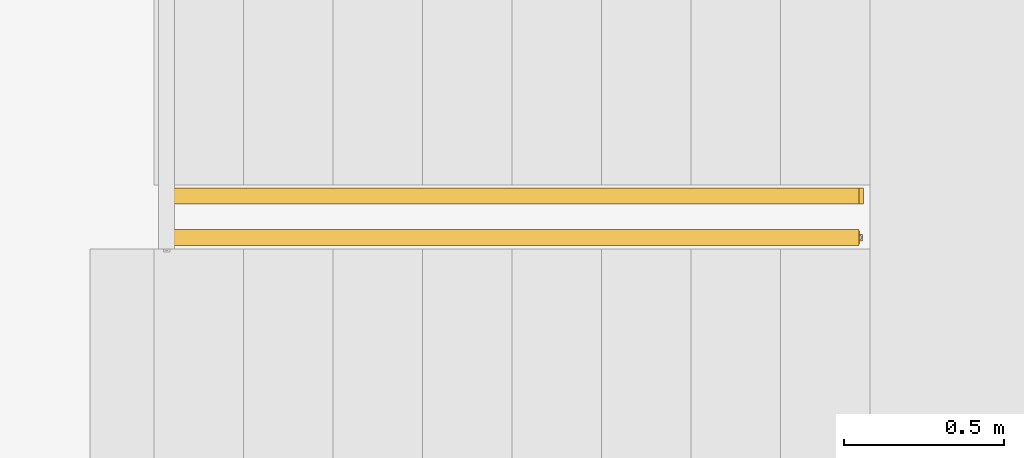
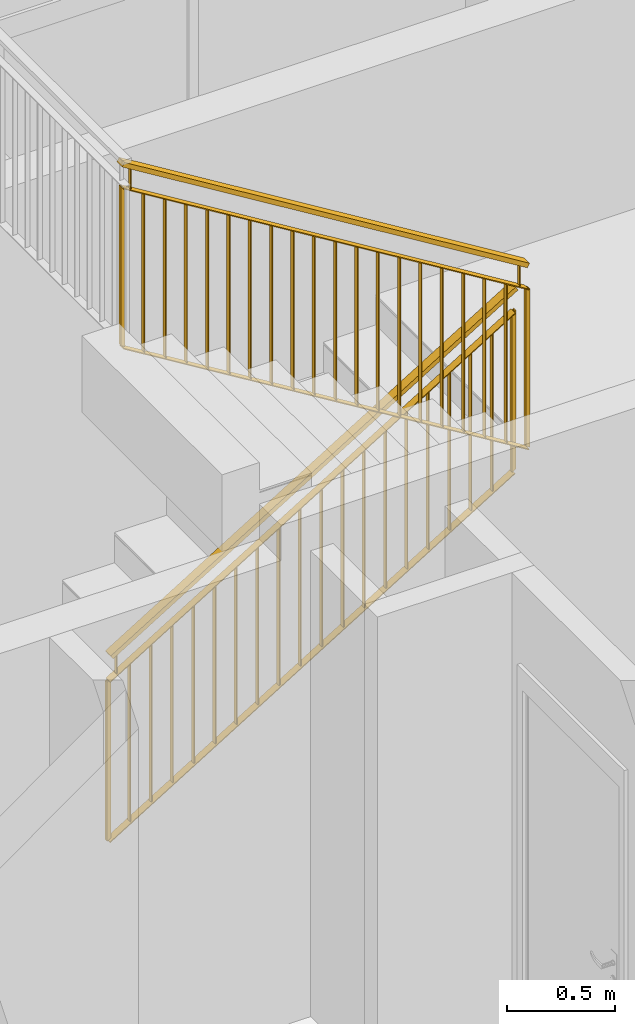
# One storey, part 7 of 61: 2 railings.
"""IFC2X3 building model written with IfcOpenShell, lengths in millimetres."""

from ifc_helpers import new_model, entity, si_unit, converted_unit, derived_unit, money_unit, direction, frame, origin_with_axes, place, context, subcontext, project, spatial, faceted_brep, material, material_list, type_object, element, save


model = new_model("IFC2X3")

# Units and contexts
model_context = context("Model", 3, precision=0.01, world=origin_with_axes(), true_north=direction((0.34421633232, 0.938890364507)))
body_context = subcontext(model_context, "Body", "Model", "MODEL_VIEW")
ifc_project = project(units=[si_unit("LENGTHUNIT", "METRE", prefix="MILLI"), si_unit("AREAUNIT", "SQUARE_METRE"), si_unit("VOLUMEUNIT", "CUBIC_METRE"), converted_unit("PLANEANGLEUNIT", "DEGREE", entity("IfcPlaneAngleMeasure", 0.0174532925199), si_unit("PLANEANGLEUNIT", "RADIAN"), dimensions=[0, 0, 0, 0, 0, 0, 0]), si_unit("SOLIDANGLEUNIT", "STERADIAN"), money_unit("USD"), converted_unit("TIMEUNIT", "Year", entity("IfcTimeMeasure", 31556926.0), si_unit("TIMEUNIT", "SECOND"), dimensions=[0, 0, 1, 0, 0, 0, 0]), si_unit("MASSUNIT", "GRAM", prefix="KILO"), si_unit("THERMODYNAMICTEMPERATUREUNIT", "DEGREE_CELSIUS"), si_unit("LUMINOUSINTENSITYUNIT", "LUMEN"), si_unit("ENERGYUNIT", "JOULE", prefix="MEGA"), derived_unit("THERMALCONDUCTANCEUNIT", [(si_unit("POWERUNIT", "WATT"), 1), (si_unit("LENGTHUNIT", "METRE"), -1), (si_unit("THERMODYNAMICTEMPERATUREUNIT", "KELVIN"), -1)]), derived_unit("SPECIFICHEATCAPACITYUNIT", [(si_unit("ENERGYUNIT", "JOULE"), 1), (si_unit("MASSUNIT", "GRAM", prefix="KILO"), -1), (si_unit("THERMODYNAMICTEMPERATUREUNIT", "KELVIN"), -1)]), derived_unit("MASSDENSITYUNIT", [(si_unit("MASSUNIT", "GRAM", prefix="KILO"), 1), (si_unit("VOLUMEUNIT", "CUBIC_METRE"), -1)])], contexts=[model_context])

# Site, building, storey
site_placement = place(None, origin_with_axes())
site = spatial("IfcSite", under=ifc_project, at=site_placement, Name="USTRONIE MORSKIE", CompositionType="ELEMENT")
building_placement = place(site_placement, origin_with_axes())
building = spatial("IfcBuilding", under=site, at=building_placement, Name="Budynek", CompositionType="ELEMENT")
storey_placement = place(building_placement, frame((0.0, 0.0, 13000.0), z_axis=(0.0, 0.0, 1.0), x_axis=(1.0, 0.0, 0.0)))
storey = spatial("IfcBuildingStorey", under=building, at=storey_placement, Name="PIĘTRO 4", CompositionType="ELEMENT", Elevation=13000.0)

# Railings
ifc_material_1 = material(Name="Stal konstrukcyjna")
ifc_material_2 = material(Name="Stal nierdzewna")
ifc_material_list = material_list([ifc_material_1, ifc_material_1, ifc_material_2, ifc_material_2, ifc_material_2, ifc_material_1, ifc_material_1, ifc_material_1, ifc_material_1, ifc_material_1, ifc_material_1, ifc_material_1, ifc_material_1, ifc_material_1, ifc_material_1, ifc_material_1, ifc_material_1, ifc_material_1, ifc_material_1, ifc_material_1, ifc_material_1, ifc_material_1, ifc_material_1])
railing_type = type_object("IfcRailingType", Name="Typ balustrady", PredefinedType="NOTDEFINED")
railing_1_placement = place(storey_placement, frame((392357.920919, 731401.199036, 192.573908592), z_axis=(0.0, 0.0, 1.0), x_axis=(1.0, 0.0, 0.0)))
element("IfcRailing", 1, at=railing_1_placement, inside=storey, type_object=railing_type, material=ifc_material_list, Name="BL1", PredefinedType="NOTDEFINED", context=body_context, shape_type="Brep", body=[
    faceted_brep([(44.1011324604, -45.0, -143.869047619), (44.1011324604, -25.0, -143.869047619), (44.1011324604, -25.0, 756.130952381), (44.1011324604, -45.0, 756.130952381), (24.1011324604, -45.0, -156.130952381), (24.1011324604, -25.0, -156.130952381), (39.1011324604, -40.0, -146.93452381), (39.1011324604, -30.0, -146.93452381), (29.1011324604, -30.0, -153.06547619), (29.1011324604, -40.0, -153.06547619), (24.1011324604, -25.0, 743.869047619), (24.1011324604, -45.0, 743.869047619), (39.1011324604, -40.0, 753.06547619), (29.1011324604, -40.0, 746.93452381), (29.1011324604, -30.0, 746.93452381), (39.1011324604, -30.0, 753.06547619)], [[[0, 1, 2, 3]], [[0, 4, 5, 1], [6, 7, 8, 9]], [[1, 5, 10, 2]], [[3, 2, 10, 11], [12, 13, 14, 15]], [[4, 0, 3, 11]], [[5, 4, 11, 10]], [[7, 6, 12, 15]], [[8, 7, 15, 14]], [[9, 8, 14, 13]], [[6, 9, 13, 12]]]),
    faceted_brep([(2215.89886754, -45.0, 1187.64980186), (2215.89886754, -25.0, 1187.64980186), (2215.89886754, -25.0, 2087.64980186), (2215.89886754, -45.0, 2087.64980186), (2195.89886754, -45.0, 1175.3878971), (2195.89886754, -25.0, 1175.3878971), (2210.89886754, -40.0, 1184.58432567), (2210.89886754, -30.0, 1184.58432567), (2200.89886754, -30.0, 1178.45337329), (2200.89886754, -40.0, 1178.45337329), (2195.89886754, -25.0, 2075.3878971), (2195.89886754, -45.0, 2075.3878971), (2210.89886754, -40.0, 2084.58432567), (2200.89886754, -40.0, 2078.45337329), (2200.89886754, -30.0, 2078.45337329), (2210.89886754, -30.0, 2084.58432567)], [[[0, 1, 2, 3]], [[0, 4, 5, 1], [6, 7, 8, 9]], [[1, 5, 10, 2]], [[3, 2, 10, 11], [12, 13, 14, 15]], [[4, 0, 3, 11]], [[5, 4, 11, 10]], [[7, 6, 12, 15]], [[8, 7, 15, 14]], [[9, 8, 14, 13]], [[6, 9, 13, 12]]]),
    faceted_brep([(34.1011324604, -59.9999999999, 900.0), (47.1681586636, -59.9999999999, 878.686792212), (2218.96589374, -59.9999999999, 2210.2056417), (2205.89886754, -59.9999999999, 2231.51884948), (34.1011324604, -9.99999999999, 900.0), (47.1681586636, -9.99999999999, 878.686792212), (47.1681586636, -25.0, 878.686792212), (44.554753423, -25.0, 882.94943377), (44.554753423, -45.0, 882.94943377), (47.1681586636, -45.0, 878.686792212), (2218.96589374, -45.0, 2210.2056417), (2216.3524885, -45.0, 2214.46828325), (2216.3524885, -25.0, 2214.46828325), (2218.96589374, -25.0, 2210.2056417), (2218.96589374, -9.99999999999, 2210.2056417), (2205.89886754, -9.99999999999, 2231.51884948)], [[[0, 1, 2, 3]], [[0, 4, 5, 6, 7, 8, 9, 1]], [[1, 9, 10, 2]], [[3, 2, 10, 11, 12, 13, 14, 15]], [[4, 0, 3, 15]], [[5, 4, 15, 14]], [[6, 5, 14, 13]], [[7, 6, 13, 12]], [[8, 7, 12, 11]], [[9, 8, 11, 10]]]),
    faceted_brep([(47.1681586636, -45.0, 878.686792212), (47.1681586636, -25.0, 878.686792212), (2218.96589374, -25.0, 2210.2056417), (2218.96589374, -45.0, 2210.2056417), (44.554753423, -45.0, 882.94943377), (44.554753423, -25.0, 882.94943377), (2216.3524885, -25.0, 2214.46828325), (2216.3524885, -45.0, 2214.46828325)], [[[0, 1, 2, 3]], [[0, 4, 5, 1]], [[1, 5, 6, 2]], [[3, 2, 6, 7]], [[4, 0, 3, 7]], [[5, 4, 7, 6]]]),
    faceted_brep([(79.2275480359, -45.0, 776.809513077), (79.2275480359, -25.0, 776.809513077), (79.2275480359, -25.0, 898.342251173), (79.2275480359, -45.0, 898.342251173), (74.2275480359, -45.0, 776.809513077), (74.2275480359, -25.0, 776.809513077), (74.2275480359, -25.0, 896.809513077), (76.7275480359, -25.0, 898.342251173), (76.7275480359, -45.0, 898.342251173), (74.2275480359, -45.0, 896.809513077)], [[[0, 1, 2, 3]], [[0, 4, 5, 1]], [[1, 5, 6, 7, 2]], [[3, 2, 7, 8]], [[4, 0, 3, 8, 9]], [[5, 4, 9, 6]], [[7, 6, 9, 8]]]),
    faceted_brep([(2165.77245196, -45.0, 2056.06025775), (2165.77245196, -25.0, 2056.06025775), (2165.77245196, -25.0, 2177.59299584), (2165.77245196, -45.0, 2177.59299584), (2160.77245196, -45.0, 2056.06025775), (2160.77245196, -25.0, 2056.06025775), (2160.77245196, -25.0, 2176.06025775), (2163.27245196, -25.0, 2177.59299584), (2163.27245196, -45.0, 2177.59299584), (2160.77245196, -45.0, 2176.06025775)], [[[0, 1, 2, 3]], [[0, 4, 5, 1]], [[1, 5, 6, 7, 2]], [[3, 2, 7, 8]], [[4, 0, 3, 8, 9]], [[5, 4, 9, 6]], [[7, 6, 9, 8]]]),
    faceted_brep([(34.1011324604, -54.9999999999, 750.0), (36.7145377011, -54.9999999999, 745.737358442), (2208.51227278, -54.9999999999, 2077.25620793), (2205.89886754, -54.9999999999, 2081.51884948), (34.1011324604, -15.0, 750.0), (36.7145377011, -15.0, 745.737358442), (2208.51227278, -15.0, 2077.25620793), (2205.89886754, -15.0, 2081.51884948)], [[[0, 1, 2, 3]], [[0, 4, 5, 1]], [[1, 5, 6, 2]], [[3, 2, 6, 7]], [[4, 0, 3, 7]], [[5, 4, 7, 6]]]),
    faceted_brep([(32.7944298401, -54.9999999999, -157.868679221), (35.4078350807, -54.9999999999, -162.131320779), (2207.20557016, -54.9999999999, 1169.3875287), (2204.59216492, -54.9999999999, 1173.65017026), (32.7944298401, -15.0, -157.868679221), (35.4078350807, -15.0, -162.131320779), (2207.20557016, -15.0, 1169.3875287), (2204.59216492, -15.0, 1173.65017026)], [[[0, 1, 2, 3]], [[0, 4, 5, 1]], [[1, 5, 6, 2]], [[3, 2, 6, 7]], [[4, 0, 3, 7]], [[5, 4, 7, 6]]]),
    faceted_brep([(150.906276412, -47.5, -83.3873224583), (150.906276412, -22.4999999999, -83.3873224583), (150.906276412, -22.4999999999, 816.612677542), (150.906276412, -47.5, 816.612677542), (145.906276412, -47.5, -86.4527986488), (145.906276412, -22.4999999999, -86.4527986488), (145.906276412, -22.4999999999, 813.547201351), (145.906276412, -47.5, 813.547201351)], [[[0, 1, 2, 3]], [[0, 4, 5, 1]], [[1, 5, 6, 2]], [[3, 2, 6, 7]], [[4, 0, 3, 7]], [[5, 4, 7, 6]]]),
    faceted_brep([(265.211420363, -47.5, -13.3073830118), (265.211420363, -22.4999999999, -13.3073830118), (265.211420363, -22.4999999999, 886.692616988), (265.211420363, -47.5, 886.692616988), (260.211420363, -47.5, -16.3728592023), (260.211420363, -22.4999999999, -16.3728592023), (260.211420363, -22.4999999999, 883.627140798), (260.211420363, -47.5, 883.627140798)], [[[0, 1, 2, 3]], [[0, 4, 5, 1]], [[1, 5, 6, 2]], [[3, 2, 6, 7]], [[4, 0, 3, 7]], [[5, 4, 7, 6]]]),
    faceted_brep([(379.516564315, -47.5, 56.7725564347), (379.516564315, -22.4999999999, 56.7725564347), (379.516564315, -22.4999999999, 956.772556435), (379.516564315, -47.5, 956.772556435), (374.516564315, -47.5, 53.7070802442), (374.516564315, -22.4999999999, 53.7070802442), (374.516564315, -22.4999999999, 953.707080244), (374.516564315, -47.5, 953.707080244)], [[[0, 1, 2, 3]], [[0, 4, 5, 1]], [[1, 5, 6, 2]], [[3, 2, 6, 7]], [[4, 0, 3, 7]], [[5, 4, 7, 6]]]),
    faceted_brep([(493.821708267, -47.5, 126.852495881), (493.821708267, -22.4999999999, 126.852495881), (493.821708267, -22.4999999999, 1026.85249588), (493.821708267, -47.5, 1026.85249588), (488.821708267, -47.5, 123.787019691), (488.821708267, -22.4999999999, 123.787019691), (488.821708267, -22.4999999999, 1023.78701969), (488.821708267, -47.5, 1023.78701969)], [[[0, 1, 2, 3]], [[0, 4, 5, 1]], [[1, 5, 6, 2]], [[3, 2, 6, 7]], [[4, 0, 3, 7]], [[5, 4, 7, 6]]]),
    faceted_brep([(608.126852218, -47.5, 196.932435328), (608.126852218, -22.4999999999, 196.932435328), (608.126852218, -22.4999999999, 1096.93243533), (608.126852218, -47.5, 1096.93243533), (603.126852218, -47.5, 193.866959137), (603.126852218, -22.4999999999, 193.866959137), (603.126852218, -22.4999999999, 1093.86695914), (603.126852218, -47.5, 1093.86695914)], [[[0, 1, 2, 3]], [[0, 4, 5, 1]], [[1, 5, 6, 2]], [[3, 2, 6, 7]], [[4, 0, 3, 7]], [[5, 4, 7, 6]]]),
    faceted_brep([(722.43199617, -47.5, 267.012374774), (722.43199617, -22.4999999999, 267.012374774), (722.43199617, -22.4999999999, 1167.01237477), (722.43199617, -47.5, 1167.01237477), (717.43199617, -47.5, 263.946898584), (717.43199617, -22.4999999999, 263.946898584), (717.43199617, -22.4999999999, 1163.94689858), (717.43199617, -47.5, 1163.94689858)], [[[0, 1, 2, 3]], [[0, 4, 5, 1]], [[1, 5, 6, 2]], [[3, 2, 6, 7]], [[4, 0, 3, 7]], [[5, 4, 7, 6]]]),
    faceted_brep([(836.737140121, -47.5, 337.092314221), (836.737140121, -22.4999999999, 337.092314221), (836.737140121, -22.4999999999, 1237.09231422), (836.737140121, -47.5, 1237.09231422), (831.737140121, -47.5, 334.02683803), (831.737140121, -22.4999999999, 334.02683803), (831.737140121, -22.4999999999, 1234.02683803), (831.737140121, -47.5, 1234.02683803)], [[[0, 1, 2, 3]], [[0, 4, 5, 1]], [[1, 5, 6, 2]], [[3, 2, 6, 7]], [[4, 0, 3, 7]], [[5, 4, 7, 6]]]),
    faceted_brep([(951.042284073, -47.5, 407.172253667), (951.042284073, -22.4999999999, 407.172253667), (951.042284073, -22.4999999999, 1307.17225367), (951.042284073, -47.5, 1307.17225367), (946.042284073, -47.5, 404.106777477), (946.042284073, -22.4999999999, 404.106777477), (946.042284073, -22.4999999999, 1304.10677748), (946.042284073, -47.5, 1304.10677748)], [[[0, 1, 2, 3]], [[0, 4, 5, 1]], [[1, 5, 6, 2]], [[3, 2, 6, 7]], [[4, 0, 3, 7]], [[5, 4, 7, 6]]]),
    faceted_brep([(1065.34742802, -47.5, 477.252193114), (1065.34742802, -22.4999999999, 477.252193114), (1065.34742802, -22.4999999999, 1377.25219311), (1065.34742802, -47.5, 1377.25219311), (1060.34742802, -47.5, 474.186716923), (1060.34742802, -22.4999999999, 474.186716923), (1060.34742802, -22.4999999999, 1374.18671692), (1060.34742802, -47.5, 1374.18671692)], [[[0, 1, 2, 3]], [[0, 4, 5, 1]], [[1, 5, 6, 2]], [[3, 2, 6, 7]], [[4, 0, 3, 7]], [[5, 4, 7, 6]]]),
    faceted_brep([(1179.65257198, -47.5, 547.33213256), (1179.65257198, -22.4999999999, 547.33213256), (1179.65257198, -22.4999999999, 1447.33213256), (1179.65257198, -47.5, 1447.33213256), (1174.65257198, -47.5, 544.26665637), (1174.65257198, -22.4999999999, 544.26665637), (1174.65257198, -22.4999999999, 1444.26665637), (1174.65257198, -47.5, 1444.26665637)], [[[0, 1, 2, 3]], [[0, 4, 5, 1]], [[1, 5, 6, 2]], [[3, 2, 6, 7]], [[4, 0, 3, 7]], [[5, 4, 7, 6]]]),
    faceted_brep([(1293.95771593, -47.5, 617.412072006), (1293.95771593, -22.4999999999, 617.412072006), (1293.95771593, -22.4999999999, 1517.41207201), (1293.95771593, -47.5, 1517.41207201), (1288.95771593, -47.5, 614.346595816), (1288.95771593, -22.4999999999, 614.346595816), (1288.95771593, -22.4999999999, 1514.34659582), (1288.95771593, -47.5, 1514.34659582)], [[[0, 1, 2, 3]], [[0, 4, 5, 1]], [[1, 5, 6, 2]], [[3, 2, 6, 7]], [[4, 0, 3, 7]], [[5, 4, 7, 6]]]),
    faceted_brep([(1408.26285988, -47.5, 687.492011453), (1408.26285988, -22.4999999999, 687.492011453), (1408.26285988, -22.4999999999, 1587.49201145), (1408.26285988, -47.5, 1587.49201145), (1403.26285988, -47.5, 684.426535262), (1403.26285988, -22.4999999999, 684.426535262), (1403.26285988, -22.4999999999, 1584.42653526), (1403.26285988, -47.5, 1584.42653526)], [[[0, 1, 2, 3]], [[0, 4, 5, 1]], [[1, 5, 6, 2]], [[3, 2, 6, 7]], [[4, 0, 3, 7]], [[5, 4, 7, 6]]]),
    faceted_brep([(1522.56800383, -47.5, 757.571950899), (1522.56800383, -22.4999999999, 757.571950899), (1522.56800383, -22.4999999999, 1657.5719509), (1522.56800383, -47.5, 1657.5719509), (1517.56800383, -47.5, 754.506474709), (1517.56800383, -22.4999999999, 754.506474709), (1517.56800383, -22.4999999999, 1654.50647471), (1517.56800383, -47.5, 1654.50647471)], [[[0, 1, 2, 3]], [[0, 4, 5, 1]], [[1, 5, 6, 2]], [[3, 2, 6, 7]], [[4, 0, 3, 7]], [[5, 4, 7, 6]]]),
    faceted_brep([(1636.87314778, -47.5, 827.651890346), (1636.87314778, -22.4999999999, 827.651890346), (1636.87314778, -22.4999999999, 1727.65189035), (1636.87314778, -47.5, 1727.65189035), (1631.87314778, -47.5, 824.586414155), (1631.87314778, -22.4999999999, 824.586414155), (1631.87314778, -22.4999999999, 1724.58641416), (1631.87314778, -47.5, 1724.58641416)], [[[0, 1, 2, 3]], [[0, 4, 5, 1]], [[1, 5, 6, 2]], [[3, 2, 6, 7]], [[4, 0, 3, 7]], [[5, 4, 7, 6]]]),
    faceted_brep([(1751.17829173, -47.5, 897.731829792), (1751.17829173, -22.4999999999, 897.731829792), (1751.17829173, -22.4999999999, 1797.73182979), (1751.17829173, -47.5, 1797.73182979), (1746.17829173, -47.5, 894.666353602), (1746.17829173, -22.4999999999, 894.666353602), (1746.17829173, -22.4999999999, 1794.6663536), (1746.17829173, -47.5, 1794.6663536)], [[[0, 1, 2, 3]], [[0, 4, 5, 1]], [[1, 5, 6, 2]], [[3, 2, 6, 7]], [[4, 0, 3, 7]], [[5, 4, 7, 6]]]),
    faceted_brep([(1865.48343569, -47.5, 967.811769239), (1865.48343569, -22.4999999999, 967.811769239), (1865.48343569, -22.4999999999, 1867.81176924), (1865.48343569, -47.5, 1867.81176924), (1860.48343569, -47.5, 964.746293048), (1860.48343569, -22.4999999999, 964.746293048), (1860.48343569, -22.4999999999, 1864.74629305), (1860.48343569, -47.5, 1864.74629305)], [[[0, 1, 2, 3]], [[0, 4, 5, 1]], [[1, 5, 6, 2]], [[3, 2, 6, 7]], [[4, 0, 3, 7]], [[5, 4, 7, 6]]]),
    faceted_brep([(1979.78857964, -47.5, 1037.89170869), (1979.78857964, -22.4999999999, 1037.89170869), (1979.78857964, -22.4999999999, 1937.89170869), (1979.78857964, -47.5, 1937.89170869), (1974.78857964, -47.5, 1034.82623249), (1974.78857964, -22.4999999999, 1034.82623249), (1974.78857964, -22.4999999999, 1934.82623249), (1974.78857964, -47.5, 1934.82623249)], [[[0, 1, 2, 3]], [[0, 4, 5, 1]], [[1, 5, 6, 2]], [[3, 2, 6, 7]], [[4, 0, 3, 7]], [[5, 4, 7, 6]]]),
    faceted_brep([(2094.09372359, -47.5, 1107.97164813), (2094.09372359, -22.4999999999, 1107.97164813), (2094.09372359, -22.4999999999, 2007.97164813), (2094.09372359, -47.5, 2007.97164813), (2089.09372359, -47.5, 1104.90617194), (2089.09372359, -22.4999999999, 1104.90617194), (2089.09372359, -22.4999999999, 2004.90617194), (2089.09372359, -47.5, 2004.90617194)], [[[0, 1, 2, 3]], [[0, 4, 5, 1]], [[1, 5, 6, 2]], [[3, 2, 6, 7]], [[4, 0, 3, 7]], [[5, 4, 7, 6]]]),
])
railing_2_placement = place(storey_placement, frame((394597.920919, 731201.199036, 1737.57390859), z_axis=(0.0, 0.0, 1.0), x_axis=(1.0, 0.0, 0.0)))
element("IfcRailing", 2, at=railing_2_placement, inside=storey, type_object=railing_type, material=ifc_material_list, Name="BL1", PredefinedType="NOTDEFINED", context=body_context, shape_type="Brep", body=[
    faceted_brep([(-44.1011324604, 45.0, -143.869047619), (-44.1011324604, 25.0, -143.869047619), (-44.1011324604, 25.0, 756.130952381), (-44.1011324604, 45.0, 756.130952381), (-24.1011324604, 45.0, -156.130952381), (-24.1011324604, 25.0, -156.130952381), (-39.1011324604, 40.0, -146.93452381), (-39.1011324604, 30.0, -146.93452381), (-29.1011324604, 30.0, -153.06547619), (-29.1011324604, 40.0, -153.06547619), (-24.1011324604, 25.0, 743.869047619), (-24.1011324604, 45.0, 743.869047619), (-39.1011324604, 40.0, 753.06547619), (-29.1011324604, 40.0, 746.93452381), (-29.1011324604, 30.0, 746.93452381), (-39.1011324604, 30.0, 753.06547619)], [[[0, 1, 2, 3]], [[0, 4, 5, 1], [6, 7, 8, 9]], [[1, 5, 10, 2]], [[3, 2, 10, 11], [12, 13, 14, 15]], [[4, 0, 3, 11]], [[5, 4, 11, 10]], [[7, 6, 12, 15]], [[8, 7, 15, 14]], [[9, 8, 14, 13]], [[6, 9, 13, 12]]]),
    faceted_brep([(-2215.89886754, 45.0, 1187.64980186), (-2215.89886754, 25.0, 1187.64980186), (-2215.89886754, 25.0, 2087.64980186), (-2215.89886754, 45.0, 2087.64980186), (-2195.89886754, 45.0, 1175.3878971), (-2195.89886754, 25.0, 1175.3878971), (-2210.89886754, 40.0, 1184.58432567), (-2210.89886754, 30.0, 1184.58432567), (-2200.89886754, 30.0, 1178.45337329), (-2200.89886754, 40.0, 1178.45337329), (-2195.89886754, 25.0, 2075.3878971), (-2195.89886754, 45.0, 2075.3878971), (-2210.89886754, 40.0, 2084.58432567), (-2200.89886754, 40.0, 2078.45337329), (-2200.89886754, 30.0, 2078.45337329), (-2210.89886754, 30.0, 2084.58432567)], [[[0, 1, 2, 3]], [[0, 4, 5, 1], [6, 7, 8, 9]], [[1, 5, 10, 2]], [[3, 2, 10, 11], [12, 13, 14, 15]], [[4, 0, 3, 11]], [[5, 4, 11, 10]], [[7, 6, 12, 15]], [[8, 7, 15, 14]], [[9, 8, 14, 13]], [[6, 9, 13, 12]]]),
    faceted_brep([(-34.1011324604, 59.9999999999, 900.0), (-47.1681586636, 59.9999999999, 878.686792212), (-2218.96589374, 59.9999999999, 2210.2056417), (-2205.89886754, 59.9999999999, 2231.51884948), (-34.1011324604, 9.99999999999, 900.0), (-47.1681586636, 9.99999999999, 878.686792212), (-47.1681586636, 25.0, 878.686792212), (-44.554753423, 25.0, 882.94943377), (-44.554753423, 45.0, 882.94943377), (-47.1681586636, 45.0, 878.686792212), (-2218.96589374, 45.0, 2210.2056417), (-2216.3524885, 45.0, 2214.46828325), (-2216.3524885, 25.0, 2214.46828325), (-2218.96589374, 25.0, 2210.2056417), (-2218.96589374, 9.99999999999, 2210.2056417), (-2205.89886754, 9.99999999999, 2231.51884948)], [[[0, 1, 2, 3]], [[0, 4, 5, 6, 7, 8, 9, 1]], [[1, 9, 10, 2]], [[3, 2, 10, 11, 12, 13, 14, 15]], [[4, 0, 3, 15]], [[5, 4, 15, 14]], [[6, 5, 14, 13]], [[7, 6, 13, 12]], [[8, 7, 12, 11]], [[9, 8, 11, 10]]]),
    faceted_brep([(-47.1681586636, 45.0, 878.686792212), (-47.1681586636, 25.0, 878.686792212), (-2218.96589374, 25.0, 2210.2056417), (-2218.96589374, 45.0, 2210.2056417), (-44.554753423, 45.0, 882.94943377), (-44.554753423, 25.0, 882.94943377), (-2216.3524885, 25.0, 2214.46828325), (-2216.3524885, 45.0, 2214.46828325)], [[[0, 1, 2, 3]], [[0, 4, 5, 1]], [[1, 5, 6, 2]], [[3, 2, 6, 7]], [[4, 0, 3, 7]], [[5, 4, 7, 6]]]),
    faceted_brep([(-79.2275480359, 45.0, 776.809513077), (-79.2275480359, 25.0, 776.809513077), (-79.2275480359, 25.0, 898.342251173), (-79.2275480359, 45.0, 898.342251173), (-74.2275480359, 45.0, 776.809513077), (-74.2275480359, 25.0, 776.809513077), (-74.2275480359, 25.0, 896.809513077), (-76.7275480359, 25.0, 898.342251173), (-76.7275480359, 45.0, 898.342251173), (-74.2275480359, 45.0, 896.809513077)], [[[0, 1, 2, 3]], [[0, 4, 5, 1]], [[1, 5, 6, 7, 2]], [[3, 2, 7, 8]], [[4, 0, 3, 8, 9]], [[5, 4, 9, 6]], [[7, 6, 9, 8]]]),
    faceted_brep([(-2165.77245196, 45.0, 2056.06025775), (-2165.77245196, 25.0, 2056.06025775), (-2165.77245196, 25.0, 2177.59299584), (-2165.77245196, 45.0, 2177.59299584), (-2160.77245196, 45.0, 2056.06025775), (-2160.77245196, 25.0, 2056.06025775), (-2160.77245196, 25.0, 2176.06025775), (-2163.27245196, 25.0, 2177.59299584), (-2163.27245196, 45.0, 2177.59299584), (-2160.77245196, 45.0, 2176.06025775)], [[[0, 1, 2, 3]], [[0, 4, 5, 1]], [[1, 5, 6, 7, 2]], [[3, 2, 7, 8]], [[4, 0, 3, 8, 9]], [[5, 4, 9, 6]], [[7, 6, 9, 8]]]),
    faceted_brep([(-34.1011324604, 54.9999999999, 750.0), (-36.7145377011, 54.9999999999, 745.737358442), (-2208.51227278, 54.9999999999, 2077.25620793), (-2205.89886754, 54.9999999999, 2081.51884948), (-34.1011324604, 15.0, 750.0), (-36.7145377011, 15.0, 745.737358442), (-2208.51227278, 15.0, 2077.25620793), (-2205.89886754, 15.0, 2081.51884948)], [[[0, 1, 2, 3]], [[0, 4, 5, 1]], [[1, 5, 6, 2]], [[3, 2, 6, 7]], [[4, 0, 3, 7]], [[5, 4, 7, 6]]]),
    faceted_brep([(-32.7944298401, 54.9999999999, -157.868679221), (-35.4078350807, 54.9999999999, -162.131320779), (-2207.20557016, 54.9999999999, 1169.3875287), (-2204.59216492, 54.9999999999, 1173.65017026), (-32.7944298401, 15.0, -157.868679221), (-35.4078350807, 15.0, -162.131320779), (-2207.20557016, 15.0, 1169.3875287), (-2204.59216492, 15.0, 1173.65017026)], [[[0, 1, 2, 3]], [[0, 4, 5, 1]], [[1, 5, 6, 2]], [[3, 2, 6, 7]], [[4, 0, 3, 7]], [[5, 4, 7, 6]]]),
    faceted_brep([(-150.906276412, 47.5, -83.3873224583), (-150.906276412, 22.4999999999, -83.3873224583), (-150.906276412, 22.4999999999, 816.612677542), (-150.906276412, 47.5, 816.612677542), (-145.906276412, 47.5, -86.4527986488), (-145.906276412, 22.4999999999, -86.4527986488), (-145.906276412, 22.4999999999, 813.547201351), (-145.906276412, 47.5, 813.547201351)], [[[0, 1, 2, 3]], [[0, 4, 5, 1]], [[1, 5, 6, 2]], [[3, 2, 6, 7]], [[4, 0, 3, 7]], [[5, 4, 7, 6]]]),
    faceted_brep([(-265.211420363, 47.5, -13.3073830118), (-265.211420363, 22.4999999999, -13.3073830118), (-265.211420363, 22.4999999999, 886.692616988), (-265.211420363, 47.5, 886.692616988), (-260.211420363, 47.5, -16.3728592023), (-260.211420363, 22.4999999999, -16.3728592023), (-260.211420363, 22.4999999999, 883.627140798), (-260.211420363, 47.5, 883.627140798)], [[[0, 1, 2, 3]], [[0, 4, 5, 1]], [[1, 5, 6, 2]], [[3, 2, 6, 7]], [[4, 0, 3, 7]], [[5, 4, 7, 6]]]),
    faceted_brep([(-379.516564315, 47.5, 56.7725564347), (-379.516564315, 22.4999999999, 56.7725564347), (-379.516564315, 22.4999999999, 956.772556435), (-379.516564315, 47.5, 956.772556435), (-374.516564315, 47.5, 53.7070802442), (-374.516564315, 22.4999999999, 53.7070802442), (-374.516564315, 22.4999999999, 953.707080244), (-374.516564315, 47.5, 953.707080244)], [[[0, 1, 2, 3]], [[0, 4, 5, 1]], [[1, 5, 6, 2]], [[3, 2, 6, 7]], [[4, 0, 3, 7]], [[5, 4, 7, 6]]]),
    faceted_brep([(-493.821708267, 47.5, 126.852495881), (-493.821708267, 22.4999999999, 126.852495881), (-493.821708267, 22.4999999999, 1026.85249588), (-493.821708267, 47.5, 1026.85249588), (-488.821708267, 47.5, 123.787019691), (-488.821708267, 22.4999999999, 123.787019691), (-488.821708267, 22.4999999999, 1023.78701969), (-488.821708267, 47.5, 1023.78701969)], [[[0, 1, 2, 3]], [[0, 4, 5, 1]], [[1, 5, 6, 2]], [[3, 2, 6, 7]], [[4, 0, 3, 7]], [[5, 4, 7, 6]]]),
    faceted_brep([(-608.126852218, 47.5, 196.932435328), (-608.126852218, 22.4999999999, 196.932435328), (-608.126852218, 22.4999999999, 1096.93243533), (-608.126852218, 47.5, 1096.93243533), (-603.126852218, 47.5, 193.866959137), (-603.126852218, 22.4999999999, 193.866959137), (-603.126852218, 22.4999999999, 1093.86695914), (-603.126852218, 47.5, 1093.86695914)], [[[0, 1, 2, 3]], [[0, 4, 5, 1]], [[1, 5, 6, 2]], [[3, 2, 6, 7]], [[4, 0, 3, 7]], [[5, 4, 7, 6]]]),
    faceted_brep([(-722.43199617, 47.5, 267.012374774), (-722.43199617, 22.4999999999, 267.012374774), (-722.43199617, 22.4999999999, 1167.01237477), (-722.43199617, 47.5, 1167.01237477), (-717.43199617, 47.5, 263.946898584), (-717.43199617, 22.4999999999, 263.946898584), (-717.43199617, 22.4999999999, 1163.94689858), (-717.43199617, 47.5, 1163.94689858)], [[[0, 1, 2, 3]], [[0, 4, 5, 1]], [[1, 5, 6, 2]], [[3, 2, 6, 7]], [[4, 0, 3, 7]], [[5, 4, 7, 6]]]),
    faceted_brep([(-836.737140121, 47.5, 337.092314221), (-836.737140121, 22.4999999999, 337.092314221), (-836.737140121, 22.4999999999, 1237.09231422), (-836.737140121, 47.5, 1237.09231422), (-831.737140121, 47.5, 334.02683803), (-831.737140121, 22.4999999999, 334.02683803), (-831.737140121, 22.4999999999, 1234.02683803), (-831.737140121, 47.5, 1234.02683803)], [[[0, 1, 2, 3]], [[0, 4, 5, 1]], [[1, 5, 6, 2]], [[3, 2, 6, 7]], [[4, 0, 3, 7]], [[5, 4, 7, 6]]]),
    faceted_brep([(-951.042284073, 47.5, 407.172253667), (-951.042284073, 22.4999999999, 407.172253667), (-951.042284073, 22.4999999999, 1307.17225367), (-951.042284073, 47.5, 1307.17225367), (-946.042284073, 47.5, 404.106777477), (-946.042284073, 22.4999999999, 404.106777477), (-946.042284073, 22.4999999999, 1304.10677748), (-946.042284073, 47.5, 1304.10677748)], [[[0, 1, 2, 3]], [[0, 4, 5, 1]], [[1, 5, 6, 2]], [[3, 2, 6, 7]], [[4, 0, 3, 7]], [[5, 4, 7, 6]]]),
    faceted_brep([(-1065.34742802, 47.5, 477.252193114), (-1065.34742802, 22.4999999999, 477.252193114), (-1065.34742802, 22.4999999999, 1377.25219311), (-1065.34742802, 47.5, 1377.25219311), (-1060.34742802, 47.5, 474.186716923), (-1060.34742802, 22.4999999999, 474.186716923), (-1060.34742802, 22.4999999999, 1374.18671692), (-1060.34742802, 47.5, 1374.18671692)], [[[0, 1, 2, 3]], [[0, 4, 5, 1]], [[1, 5, 6, 2]], [[3, 2, 6, 7]], [[4, 0, 3, 7]], [[5, 4, 7, 6]]]),
    faceted_brep([(-1179.65257198, 47.5, 547.33213256), (-1179.65257198, 22.4999999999, 547.33213256), (-1179.65257198, 22.4999999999, 1447.33213256), (-1179.65257198, 47.5, 1447.33213256), (-1174.65257198, 47.5, 544.26665637), (-1174.65257198, 22.4999999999, 544.26665637), (-1174.65257198, 22.4999999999, 1444.26665637), (-1174.65257198, 47.5, 1444.26665637)], [[[0, 1, 2, 3]], [[0, 4, 5, 1]], [[1, 5, 6, 2]], [[3, 2, 6, 7]], [[4, 0, 3, 7]], [[5, 4, 7, 6]]]),
    faceted_brep([(-1293.95771593, 47.5, 617.412072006), (-1293.95771593, 22.4999999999, 617.412072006), (-1293.95771593, 22.4999999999, 1517.41207201), (-1293.95771593, 47.5, 1517.41207201), (-1288.95771593, 47.5, 614.346595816), (-1288.95771593, 22.4999999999, 614.346595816), (-1288.95771593, 22.4999999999, 1514.34659582), (-1288.95771593, 47.5, 1514.34659582)], [[[0, 1, 2, 3]], [[0, 4, 5, 1]], [[1, 5, 6, 2]], [[3, 2, 6, 7]], [[4, 0, 3, 7]], [[5, 4, 7, 6]]]),
    faceted_brep([(-1408.26285988, 47.5, 687.492011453), (-1408.26285988, 22.4999999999, 687.492011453), (-1408.26285988, 22.4999999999, 1587.49201145), (-1408.26285988, 47.5, 1587.49201145), (-1403.26285988, 47.5, 684.426535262), (-1403.26285988, 22.4999999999, 684.426535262), (-1403.26285988, 22.4999999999, 1584.42653526), (-1403.26285988, 47.5, 1584.42653526)], [[[0, 1, 2, 3]], [[0, 4, 5, 1]], [[1, 5, 6, 2]], [[3, 2, 6, 7]], [[4, 0, 3, 7]], [[5, 4, 7, 6]]]),
    faceted_brep([(-1522.56800383, 47.5, 757.571950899), (-1522.56800383, 22.4999999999, 757.571950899), (-1522.56800383, 22.4999999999, 1657.5719509), (-1522.56800383, 47.5, 1657.5719509), (-1517.56800383, 47.5, 754.506474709), (-1517.56800383, 22.4999999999, 754.506474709), (-1517.56800383, 22.4999999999, 1654.50647471), (-1517.56800383, 47.5, 1654.50647471)], [[[0, 1, 2, 3]], [[0, 4, 5, 1]], [[1, 5, 6, 2]], [[3, 2, 6, 7]], [[4, 0, 3, 7]], [[5, 4, 7, 6]]]),
    faceted_brep([(-1636.87314778, 47.5, 827.651890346), (-1636.87314778, 22.4999999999, 827.651890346), (-1636.87314778, 22.4999999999, 1727.65189035), (-1636.87314778, 47.5, 1727.65189035), (-1631.87314778, 47.5, 824.586414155), (-1631.87314778, 22.4999999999, 824.586414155), (-1631.87314778, 22.4999999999, 1724.58641416), (-1631.87314778, 47.5, 1724.58641416)], [[[0, 1, 2, 3]], [[0, 4, 5, 1]], [[1, 5, 6, 2]], [[3, 2, 6, 7]], [[4, 0, 3, 7]], [[5, 4, 7, 6]]]),
    faceted_brep([(-1751.17829173, 47.5, 897.731829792), (-1751.17829173, 22.4999999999, 897.731829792), (-1751.17829173, 22.4999999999, 1797.73182979), (-1751.17829173, 47.5, 1797.73182979), (-1746.17829173, 47.5, 894.666353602), (-1746.17829173, 22.4999999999, 894.666353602), (-1746.17829173, 22.4999999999, 1794.6663536), (-1746.17829173, 47.5, 1794.6663536)], [[[0, 1, 2, 3]], [[0, 4, 5, 1]], [[1, 5, 6, 2]], [[3, 2, 6, 7]], [[4, 0, 3, 7]], [[5, 4, 7, 6]]]),
    faceted_brep([(-1865.48343569, 47.5, 967.811769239), (-1865.48343569, 22.4999999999, 967.811769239), (-1865.48343569, 22.4999999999, 1867.81176924), (-1865.48343569, 47.5, 1867.81176924), (-1860.48343569, 47.5, 964.746293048), (-1860.48343569, 22.4999999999, 964.746293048), (-1860.48343569, 22.4999999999, 1864.74629305), (-1860.48343569, 47.5, 1864.74629305)], [[[0, 1, 2, 3]], [[0, 4, 5, 1]], [[1, 5, 6, 2]], [[3, 2, 6, 7]], [[4, 0, 3, 7]], [[5, 4, 7, 6]]]),
    faceted_brep([(-1979.78857964, 47.5, 1037.89170869), (-1979.78857964, 22.4999999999, 1037.89170869), (-1979.78857964, 22.4999999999, 1937.89170869), (-1979.78857964, 47.5, 1937.89170869), (-1974.78857964, 47.5, 1034.82623249), (-1974.78857964, 22.4999999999, 1034.82623249), (-1974.78857964, 22.4999999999, 1934.82623249), (-1974.78857964, 47.5, 1934.82623249)], [[[0, 1, 2, 3]], [[0, 4, 5, 1]], [[1, 5, 6, 2]], [[3, 2, 6, 7]], [[4, 0, 3, 7]], [[5, 4, 7, 6]]]),
    faceted_brep([(-2094.09372359, 47.5, 1107.97164813), (-2094.09372359, 22.4999999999, 1107.97164813), (-2094.09372359, 22.4999999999, 2007.97164813), (-2094.09372359, 47.5, 2007.97164813), (-2089.09372359, 47.5, 1104.90617194), (-2089.09372359, 22.4999999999, 1104.90617194), (-2089.09372359, 22.4999999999, 2004.90617194), (-2089.09372359, 47.5, 2004.90617194)], [[[0, 1, 2, 3]], [[0, 4, 5, 1]], [[1, 5, 6, 2]], [[3, 2, 6, 7]], [[4, 0, 3, 7]], [[5, 4, 7, 6]]]),
])

save(model, "model.ifc")
